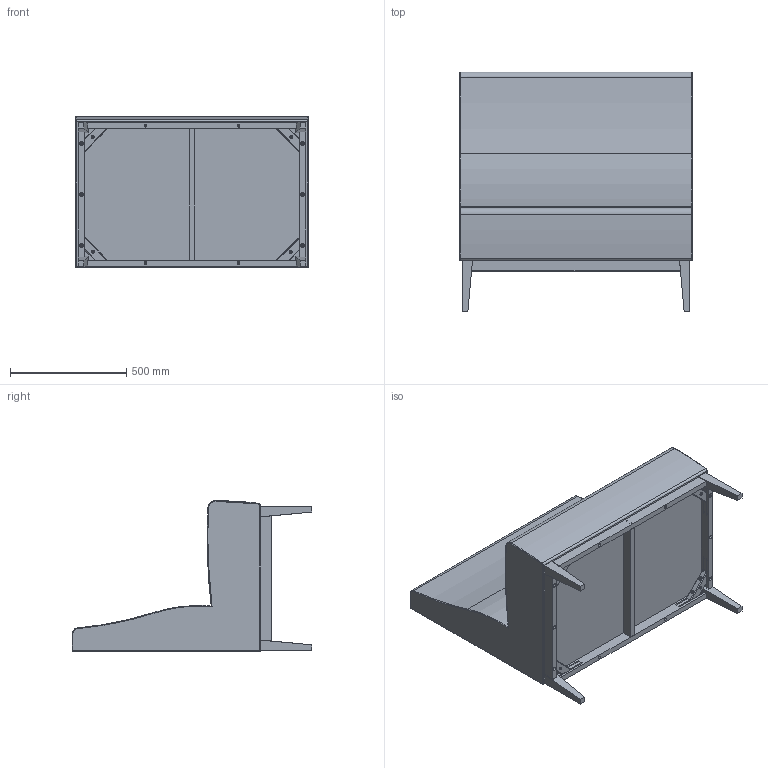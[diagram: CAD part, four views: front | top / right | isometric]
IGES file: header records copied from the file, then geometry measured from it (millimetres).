
Start section: SolidWorks IGES file using analytic representation for surfaces
Global section: file name: D:\DESENHOSSOLIDWORKS\Desenhos Tecnicos\Fabrica3\MESAS\DESENHOS DA SARA\Sofás\Bases\100.B5\Blues 100 B5.IGS; native system: SolidWorks 2017; preprocessor: SolidWorks 2017; author: Mateus; date: 170717.183239; units: millimetre
Bounding box: 1000.06 x 1030.08 x 647.02 mm (x, y, z)
Surface area: 4041651.5 mm2 (no closed solid volume)
Topology: 0 solids, 0 shells, 559 faces, 7929 edges, 9328 vertices
Faces by surface type: bspline 322, revolution 237
